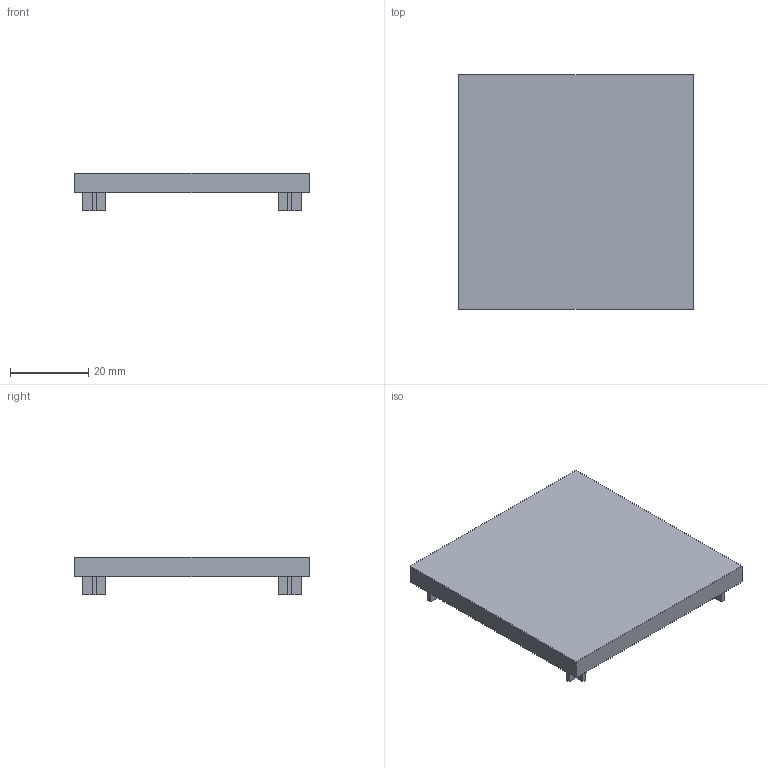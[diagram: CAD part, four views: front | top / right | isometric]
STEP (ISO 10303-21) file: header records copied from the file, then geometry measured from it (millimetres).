
FILE_DESCRIPTION(/* description */ ('Unknown'),/* implementation_level */ '2;1');
FILE_NAME(/* name */ 'CAP6060',/* time_stamp */ '2026-08-31T14:19:12+08:00',/* author */ ('Unknown'),/* organization */ ('Unknown'),/* preprocessor_version */ 'ST-DEVELOPER v16.7',/* originating_system */ 'DEX',/* authorisation */ $);
FILE_SCHEMA (('AUTOMOTIVE_DESIGN {1 0 10303 214 3 1 1}'));
Length unit declared in the file: millimetre
Products named in the file (1): CAP
Bounding box: 60 x 60 x 9.5 mm (x, y, z)
Volume: 4918 mm3; surface area: 10144 mm2
Topology: 1 solids, 1 shells, 63 faces, 168 edges, 112 vertices
Faces by surface type: plane 63
Entity records: 1952 total; most frequent: CARTESIAN_POINT 344, ORIENTED_EDGE 336, DIRECTION 296, EDGE_CURVE 168, LINE 168, VECTOR 168, VERTEX_POINT 112, EDGE_LOOP 68
